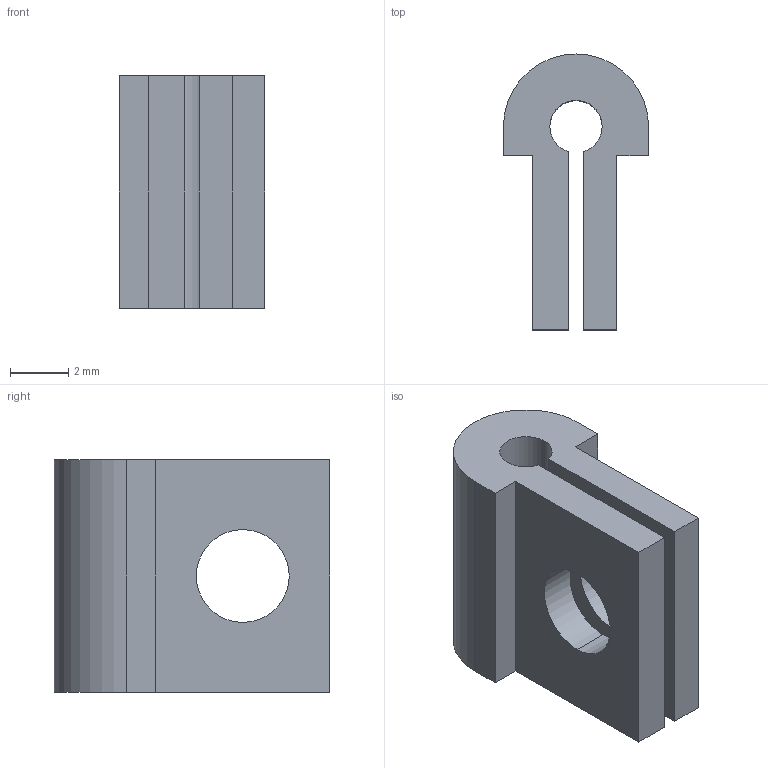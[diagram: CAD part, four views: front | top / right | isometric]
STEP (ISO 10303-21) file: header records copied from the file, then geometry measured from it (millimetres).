
FILE_DESCRIPTION (( 'STEP AP214' ), '1' );
FILE_NAME ('RetainingClip.STEP', '2026-05-15T15:19:15', ( '' ), ( '' ), 'SwSTEP 2.0', 'SolidWorks 2010', '' );
FILE_SCHEMA (( 'AUTOMOTIVE_DESIGN' ));
Length unit declared in the file: millimetre
Products named in the file (1): RetainingClip
Bounding box: 5 x 9.5 x 8 mm (x, y, z)
Volume: 193.6 mm3; surface area: 395.4 mm2
Topology: 1 solids, 1 shells, 20 faces, 54 edges, 36 vertices
Faces by surface type: plane 12, cylinder 8
Entity records: 676 total; most frequent: DIRECTION 112, CARTESIAN_POINT 111, ORIENTED_EDGE 108, EDGE_CURVE 54, VECTOR 38, LINE 38, AXIS2_PLACEMENT_3D 37, VERTEX_POINT 36
